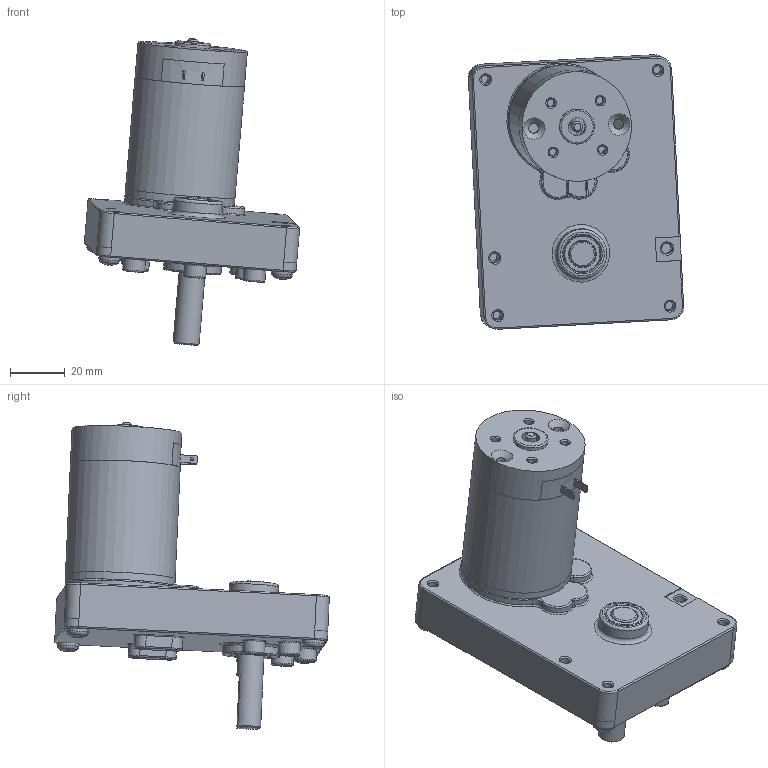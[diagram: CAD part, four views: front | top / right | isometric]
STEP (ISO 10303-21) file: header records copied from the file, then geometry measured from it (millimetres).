
FILE_DESCRIPTION(/* description */ (''),/* implementation_level */ '2;1');
FILE_NAME(/* name */ 'C:\Users\byjeong\Desktop\3D도면\SP43BT.stp',/* time_stamp */ '2015-03-31T15:17:50+09:00',/* author */ ('byjeong'),/* organization */ (''),/* preprocessor_version */ 'ST-DEVELOPER v15.6',/* originating_system */ 'Autodesk Inventor 2015',/* authorisation */ '');
FILE_SCHEMA (('AUTOMOTIVE_DESIGN { 1 0 10303 214 3 1 1 }'));
Length unit declared in the file: millimetre
Products named in the file (9): SQ BOX ASSY; RM4TYPE_FRONT_HOUSING_; RM4TYPE_BRUSH_BRAKET_TERMINAL; RM4TYPE_REAR_HOUSING; REAR_HOUSING__ASS'Y_TERMINAL; RM4TYPE_PIPE_HOUSING_pi40XL40.8; RM43TYPE_SHAFT; RM43ㅁBT; 조립품23
Bounding box: 78.3 x 99.88 x 111.54 mm (x, y, z)
Volume: 146935.1 mm3; surface area: 44953.3 mm2
Topology: 10 solids, 10 shells, 390 faces, 883 edges, 552 vertices
Faces by surface type: plane 124, cylinder 102, cone 87, torus 70, sphere 4, bspline 3
Full cylindrical faces by diameter (mm): 1.2 x2, 2.7 x4, 2.8 x4, 3.3 x4, 3.4 x3, 3.5 x1, 3.571 x3, 3.7 x2, 3.9 x1, 3.969 x1, 4 x10, 4.4 x3, 5 x1, 6.5 x1, 6.65 x1, 8 x5, 9.5 x3, 12.7 x3, 13.5 x2, 14.3 x1, 18 x1, 21 x1, 36.5 x1, 40 x3
Entity records: 10811 total; most frequent: CARTESIAN_POINT 2458, DIRECTION 1816, ORIENTED_EDGE 1444, AXIS2_PLACEMENT_3D 820, EDGE_CURVE 722, EDGE_LOOP 603, VERTEX_POINT 527, CIRCLE 416
